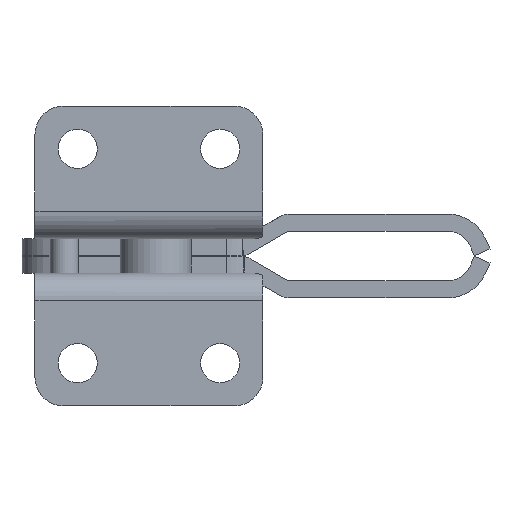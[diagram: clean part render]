
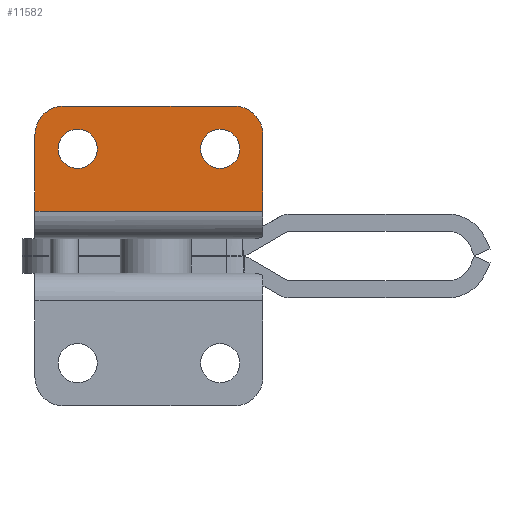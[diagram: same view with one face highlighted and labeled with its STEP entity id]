
A CAD part, front view. The second image highlights one B-rep face of the part: STEP entity #11582.
In plain terms, the highlighted planar face has unit normal (0, -1, 0).
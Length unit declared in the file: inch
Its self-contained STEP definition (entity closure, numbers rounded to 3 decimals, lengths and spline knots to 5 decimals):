
#254=FACE_BOUND('',#1332,.T.);
#255=FACE_BOUND('',#1333,.T.);
#628=FACE_OUTER_BOUND('',#1331,.T.);
#1331=EDGE_LOOP('',(#9061,#9062,#9063,#9064,#9065,#9066));
#1332=EDGE_LOOP('',(#9067));
#1333=EDGE_LOOP('',(#9068));
#1852=CIRCLE('',#12342,0.125);
#1853=CIRCLE('',#12343,0.125);
#1854=CIRCLE('',#12344,0.086);
#1855=CIRCLE('',#12345,0.086);
#2646=LINE('',#17538,#4038);
#2653=LINE('',#17555,#4045);
#2658=LINE('',#17587,#4050);
#2661=LINE('',#17593,#4053);
#4038=VECTOR('',#14243,0.33613);
#4045=VECTOR('',#14256,0.33613);
#4050=VECTOR('',#14291,0.75);
#4053=VECTOR('',#14300,1.);
#5281=VERTEX_POINT('',#17536);
#5282=VERTEX_POINT('',#17537);
#5288=VERTEX_POINT('',#17552);
#5289=VERTEX_POINT('',#17554);
#5300=VERTEX_POINT('',#17585);
#5301=VERTEX_POINT('',#17586);
#5302=VERTEX_POINT('',#17594);
#5303=VERTEX_POINT('',#17596);
#6637=EDGE_CURVE('',#5281,#5282,#2646,.T.);
#6646=EDGE_CURVE('',#5288,#5289,#2653,.T.);
#6662=EDGE_CURVE('',#5300,#5301,#2658,.T.);
#6665=EDGE_CURVE('',#5288,#5300,#1852,.T.);
#6666=EDGE_CURVE('',#5301,#5281,#1853,.T.);
#6667=EDGE_CURVE('',#5282,#5289,#2661,.T.);
#6668=EDGE_CURVE('',#5302,#5302,#1854,.T.);
#6669=EDGE_CURVE('',#5303,#5303,#1855,.T.);
#9061=ORIENTED_EDGE('',*,*,#6646,.F.);
#9062=ORIENTED_EDGE('',*,*,#6665,.T.);
#9063=ORIENTED_EDGE('',*,*,#6662,.T.);
#9064=ORIENTED_EDGE('',*,*,#6666,.T.);
#9065=ORIENTED_EDGE('',*,*,#6637,.T.);
#9066=ORIENTED_EDGE('',*,*,#6667,.T.);
#9067=ORIENTED_EDGE('',*,*,#6668,.T.);
#9068=ORIENTED_EDGE('',*,*,#6669,.T.);
#11021=PLANE('',#12341);
#11582=ADVANCED_FACE('',(#628,#254,#255),#11021,.F.);
#12341=AXIS2_PLACEMENT_3D('',#17590,#14294,#14295);
#12342=AXIS2_PLACEMENT_3D('',#17591,#14296,#14297);
#12343=AXIS2_PLACEMENT_3D('',#17592,#14298,#14299);
#12344=AXIS2_PLACEMENT_3D('',#17595,#14301,#14302);
#12345=AXIS2_PLACEMENT_3D('',#17597,#14303,#14304);
#14243=DIRECTION('',(0.,0.,-1.));
#14256=DIRECTION('',(0.,0.,-1.));
#14291=DIRECTION('',(-1.,0.,0.));
#14294=DIRECTION('center_axis',(0.,1.,0.));
#14295=DIRECTION('ref_axis',(1.,0.,0.));
#14296=DIRECTION('center_axis',(0.,-1.,0.));
#14297=DIRECTION('ref_axis',(1.,0.,0.));
#14298=DIRECTION('center_axis',(0.,-1.,0.));
#14299=DIRECTION('ref_axis',(1.,0.,0.));
#14300=DIRECTION('',(1.,0.,0.));
#14301=DIRECTION('center_axis',(0.,1.,0.));
#14302=DIRECTION('ref_axis',(1.,0.,0.));
#14303=DIRECTION('center_axis',(0.,1.,0.));
#14304=DIRECTION('ref_axis',(1.,0.,0.));
#17536=CARTESIAN_POINT('',(-0.13,-1.64334,1.74864));
#17537=CARTESIAN_POINT('',(-0.13,-1.64334,1.41251));
#17538=CARTESIAN_POINT('',(-0.13,-1.64334,3.29094));
#17552=CARTESIAN_POINT('',(0.87,-1.64334,1.74864));
#17554=CARTESIAN_POINT('',(0.87,-1.64334,1.41251));
#17555=CARTESIAN_POINT('',(0.87,-1.64334,3.29094));
#17585=CARTESIAN_POINT('',(0.745,-1.64334,1.87364));
#17586=CARTESIAN_POINT('',(-0.005,-1.64334,1.87364));
#17587=CARTESIAN_POINT('',(1.87,-1.64334,1.87364));
#17590=CARTESIAN_POINT('Origin',(1.87,-1.64334,1.87364));
#17591=CARTESIAN_POINT('Origin',(0.745,-1.64334,1.74864));
#17592=CARTESIAN_POINT('Origin',(-0.005,-1.64334,
1.74864));
#17593=CARTESIAN_POINT('',(1.87,-1.64334,1.41251));
#17594=CARTESIAN_POINT('',(0.7685,-1.64334,1.68564));
#17595=CARTESIAN_POINT('Origin',(0.6825,-1.64334,1.68564));
#17596=CARTESIAN_POINT('',(0.1435,-1.64334,1.68564));
#17597=CARTESIAN_POINT('Origin',(0.0575,-1.64334,1.68564));
